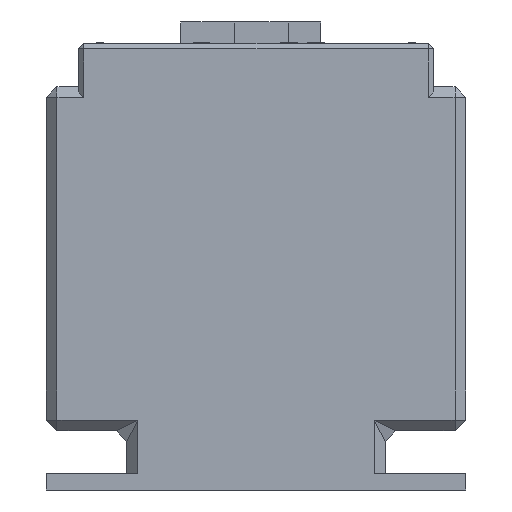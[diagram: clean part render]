
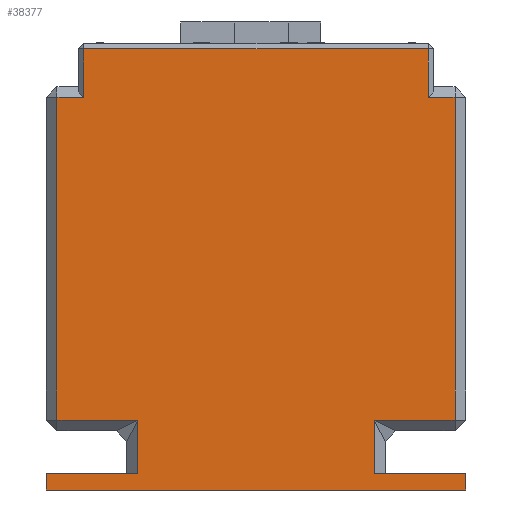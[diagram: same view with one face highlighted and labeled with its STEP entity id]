
A CAD part, left-side view. The second image highlights one B-rep face of the part: STEP entity #38377.
In plain terms, the highlighted planar face has unit normal (-1, 0, 0).
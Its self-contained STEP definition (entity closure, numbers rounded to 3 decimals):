
#4205=FACE_OUTER_BOUND('',#6517,.T.);
#6517=EDGE_LOOP('',(#32031,#32032,#32033,#32034,#32035,#32036,#32037,#32038,
#32039,#32040,#32041,#32042,#32043,#32044,#32045,#32046));
#10084=LINE('',#64720,#13918);
#10086=LINE('',#64723,#13920);
#10090=LINE('',#64733,#13924);
#10118=LINE('',#64791,#13952);
#10120=LINE('',#64794,#13954);
#10125=LINE('',#64802,#13959);
#10134=LINE('',#64818,#13968);
#10166=LINE('',#64885,#14000);
#10169=LINE('',#64890,#14003);
#10173=LINE('',#64896,#14007);
#10177=LINE('',#64904,#14011);
#10181=LINE('',#64912,#14015);
#10182=LINE('',#64914,#14016);
#10183=LINE('',#64916,#14017);
#10184=LINE('',#64918,#14018);
#10185=LINE('',#64919,#14019);
#13918=VECTOR('',#46528,10.);
#13920=VECTOR('',#46532,10.);
#13924=VECTOR('',#46542,10.);
#13952=VECTOR('',#46592,10.);
#13954=VECTOR('',#46596,10.);
#13959=VECTOR('',#46607,10.);
#13968=VECTOR('',#46622,10.);
#14000=VECTOR('',#46684,10.);
#14003=VECTOR('',#46691,10.);
#14007=VECTOR('',#46697,10.);
#14011=VECTOR('',#46705,10.);
#14015=VECTOR('',#46713,10.);
#14016=VECTOR('',#46714,10.);
#14017=VECTOR('',#46715,10.);
#14018=VECTOR('',#46716,10.);
#14019=VECTOR('',#46717,10.);
#17450=VERTEX_POINT('',#64704);
#17452=VERTEX_POINT('',#64713);
#17454=VERTEX_POINT('',#64718);
#17456=VERTEX_POINT('',#64729);
#17463=VERTEX_POINT('',#64746);
#17468=VERTEX_POINT('',#64759);
#17472=VERTEX_POINT('',#64770);
#17479=VERTEX_POINT('',#64814);
#17492=VERTEX_POINT('',#64860);
#17496=VERTEX_POINT('',#64868);
#17498=VERTEX_POINT('',#64877);
#17503=VERTEX_POINT('',#64902);
#17505=VERTEX_POINT('',#64911);
#17506=VERTEX_POINT('',#64913);
#17507=VERTEX_POINT('',#64915);
#17508=VERTEX_POINT('',#64917);
#22449=EDGE_CURVE('',#17454,#17452,#10084,.T.);
#22451=EDGE_CURVE('',#17452,#17450,#10086,.T.);
#22456=EDGE_CURVE('',#17450,#17456,#10090,.T.);
#22484=EDGE_CURVE('',#17456,#17472,#10118,.T.);
#22486=EDGE_CURVE('',#17472,#17468,#10120,.T.);
#22491=EDGE_CURVE('',#17468,#17463,#10125,.T.);
#22500=EDGE_CURVE('',#17463,#17479,#10134,.T.);
#22532=EDGE_CURVE('',#17498,#17496,#10166,.T.);
#22535=EDGE_CURVE('',#17492,#17498,#10169,.T.);
#22539=EDGE_CURVE('',#17496,#17454,#10173,.T.);
#22543=EDGE_CURVE('',#17503,#17492,#10177,.T.);
#22547=EDGE_CURVE('',#17503,#17505,#10181,.T.);
#22548=EDGE_CURVE('',#17506,#17505,#10182,.T.);
#22549=EDGE_CURVE('',#17506,#17507,#10183,.T.);
#22550=EDGE_CURVE('',#17507,#17508,#10184,.T.);
#22551=EDGE_CURVE('',#17508,#17479,#10185,.T.);
#32031=ORIENTED_EDGE('',*,*,#22539,.F.);
#32032=ORIENTED_EDGE('',*,*,#22532,.F.);
#32033=ORIENTED_EDGE('',*,*,#22535,.F.);
#32034=ORIENTED_EDGE('',*,*,#22543,.F.);
#32035=ORIENTED_EDGE('',*,*,#22547,.T.);
#32036=ORIENTED_EDGE('',*,*,#22548,.F.);
#32037=ORIENTED_EDGE('',*,*,#22549,.T.);
#32038=ORIENTED_EDGE('',*,*,#22550,.T.);
#32039=ORIENTED_EDGE('',*,*,#22551,.T.);
#32040=ORIENTED_EDGE('',*,*,#22500,.F.);
#32041=ORIENTED_EDGE('',*,*,#22491,.F.);
#32042=ORIENTED_EDGE('',*,*,#22486,.F.);
#32043=ORIENTED_EDGE('',*,*,#22484,.F.);
#32044=ORIENTED_EDGE('',*,*,#22456,.F.);
#32045=ORIENTED_EDGE('',*,*,#22451,.F.);
#32046=ORIENTED_EDGE('',*,*,#22449,.F.);
#36311=PLANE('',#40275);
#38377=ADVANCED_FACE('',(#4205),#36311,.T.);
#40275=AXIS2_PLACEMENT_3D('',#64910,#46711,#46712);
#46528=DIRECTION('',(0.,0.,1.));
#46532=DIRECTION('',(0.,-1.,0.));
#46542=DIRECTION('',(0.,0.,-1.));
#46592=DIRECTION('',(0.,-1.,0.));
#46596=DIRECTION('',(0.,0.,-1.));
#46607=DIRECTION('',(0.,1.,0.));
#46622=DIRECTION('',(0.,0.,-1.));
#46684=DIRECTION('',(0.,0.,1.));
#46691=DIRECTION('',(0.,1.,0.));
#46697=DIRECTION('',(0.,-1.,0.));
#46705=DIRECTION('',(0.,0.,1.));
#46711=DIRECTION('center_axis',(-1.,0.,0.));
#46712=DIRECTION('ref_axis',(0.,-1.,0.));
#46713=DIRECTION('',(0.,1.,0.));
#46714=DIRECTION('',(0.,0.,1.));
#46715=DIRECTION('',(0.,-1.,0.));
#46716=DIRECTION('',(0.,0.,1.));
#46717=DIRECTION('',(0.,1.,0.));
#64704=CARTESIAN_POINT('',(0.,7.,82.));
#64713=CARTESIAN_POINT('',(0.,71.,82.));
#64718=CARTESIAN_POINT('',(0.,71.,73.));
#64720=CARTESIAN_POINT('',(0.,71.,43.5));
#64723=CARTESIAN_POINT('',(0.,58.5,82.));
#64729=CARTESIAN_POINT('',(0.,7.,73.));
#64733=CARTESIAN_POINT('',(0.,7.,43.5));
#64746=CARTESIAN_POINT('',(0.,17.,13.));
#64759=CARTESIAN_POINT('',(0.,2.,13.));
#64770=CARTESIAN_POINT('',(0.,2.,73.));
#64791=CARTESIAN_POINT('',(0.,40.803,73.));
#64794=CARTESIAN_POINT('',(0.,2.,0.));
#64802=CARTESIAN_POINT('',(0.,39.,13.));
#64814=CARTESIAN_POINT('',(0.,17.,3.));
#64818=CARTESIAN_POINT('',(0.,17.,3.5));
#64860=CARTESIAN_POINT('',(0.,61.,13.));
#64868=CARTESIAN_POINT('',(0.,76.,73.));
#64877=CARTESIAN_POINT('',(0.,76.,13.));
#64885=CARTESIAN_POINT('',(0.,76.,0.));
#64890=CARTESIAN_POINT('',(0.,78.,13.));
#64896=CARTESIAN_POINT('',(0.,76.197,73.));
#64902=CARTESIAN_POINT('',(0.,61.,3.));
#64904=CARTESIAN_POINT('',(0.,61.,3.5));
#64910=CARTESIAN_POINT('Origin',(0.,78.,0.));
#64911=CARTESIAN_POINT('',(0.,78.,3.));
#64912=CARTESIAN_POINT('',(0.,78.,3.));
#64913=CARTESIAN_POINT('',(0.,78.,0.));
#64914=CARTESIAN_POINT('',(0.,78.,0.));
#64915=CARTESIAN_POINT('',(0.,0.,0.));
#64916=CARTESIAN_POINT('',(0.,78.,0.));
#64917=CARTESIAN_POINT('',(0.,0.,3.));
#64918=CARTESIAN_POINT('',(0.,0.,0.));
#64919=CARTESIAN_POINT('',(0.,39.,3.));
